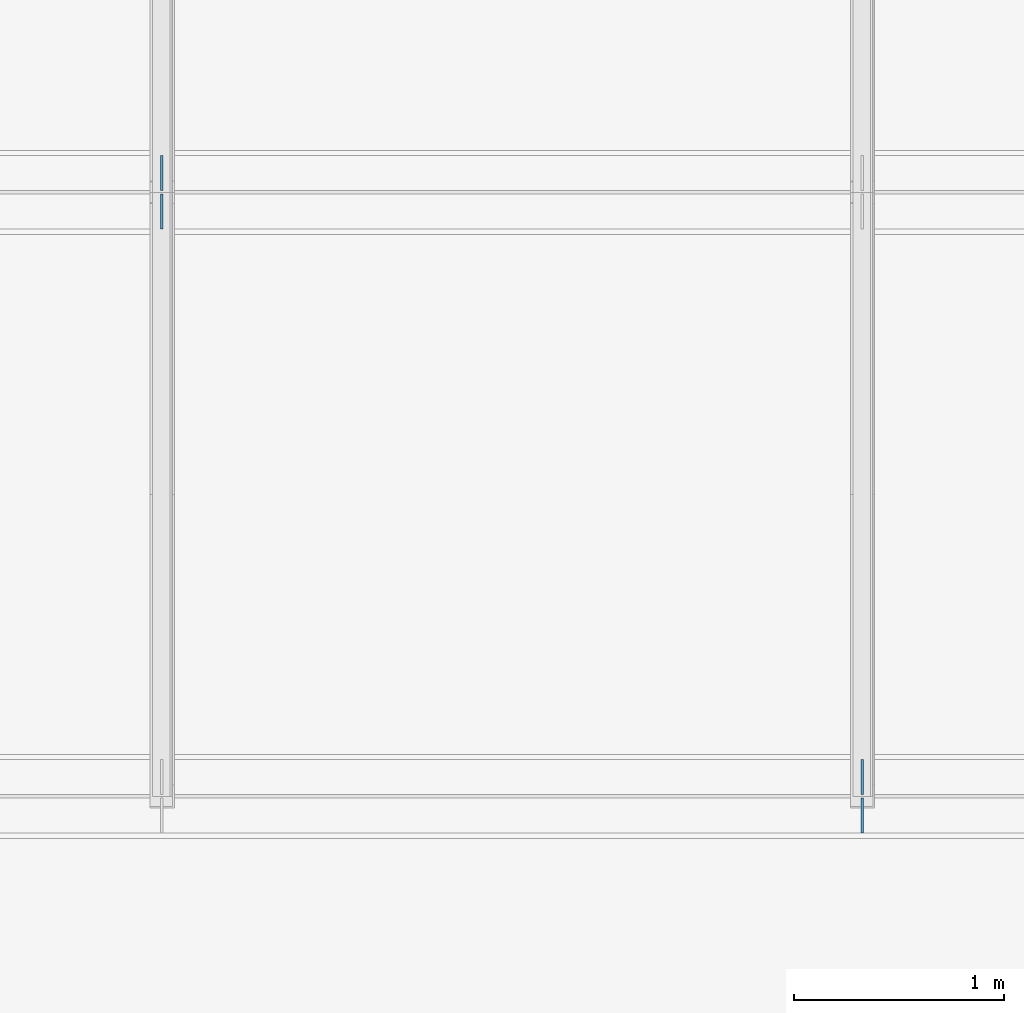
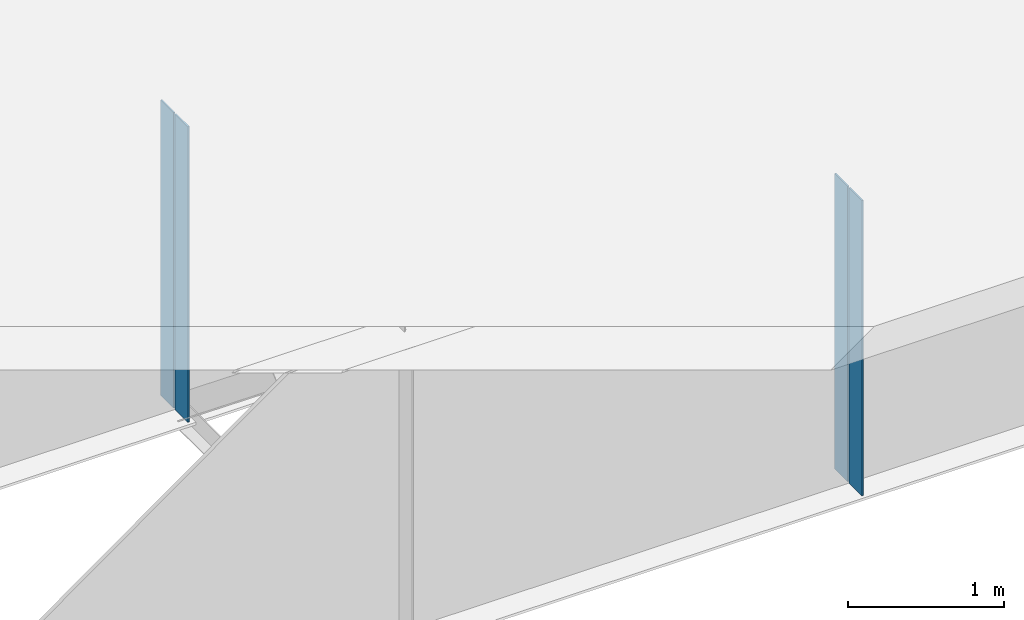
# One storey, part 7 of 15: 4 plates.
"""IFC4 building model written with IfcOpenShell, lengths in metres."""

from ifc_helpers import new_model, si_unit, frame, origin, origin_with_axes, origin_2d_with_axis, place, context, subcontext, project, spatial, rectangle, extrude, element, save


model = new_model("IFC4")

# Units and contexts
model_context = context("Model", 3, precision=1e-05, world=origin())
body_context = subcontext(model_context, "Body", "Model", "MODEL_VIEW")
ifc_project = project(units=[si_unit("LENGTHUNIT", "METRE"), si_unit("AREAUNIT", "SQUARE_METRE"), si_unit("VOLUMEUNIT", "CUBIC_METRE"), si_unit("PLANEANGLEUNIT", "RADIAN")], contexts=[model_context])

# Site, building, storey
site_placement = place(None, origin_with_axes())
site = spatial("IfcSite", under=ifc_project, at=site_placement, Name="Default Site")
building_placement = place(site_placement, origin_with_axes())
building = spatial("IfcBuilding", under=site, at=building_placement, Name="Bridge Structure")
storey_placement = place(building_placement, origin_with_axes())
storey = spatial("IfcBuildingStorey", under=building, at=storey_placement, Name="Superstructure")

# Plates
for number, where, z_axis, x_axis, name in (
    (1, (19.998, -4.221, -1.157), (0.0, 0.0, 1.0), (1.0, 0.0, 0.0), "Intermediate Stiffener 1"),
    (2, (19.998, -4.404, -1.157), (0.0, 0.0, 1.0), (1.0, 0.0, 0.0), "Intermediate Stiffener 1"),
    (3, (16.665, -1.346, -1.157), (0.0, 0.0, 1.0), (1.0, 0.0, 0.0), "Intermediate Stiffener 2"),
    (4, (16.665, -1.5290000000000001, -1.157), (0.0, 0.0, 1.0), (1.0, 0.0, 0.0), "Intermediate Stiffener 2"),
):
    element("IfcPlate", number, at=place(storey_placement, frame(where, z_axis=z_axis, x_axis=x_axis)), inside=storey, Name=name, context=body_context, shape_type="SweptSolid", body=[
        extrude(rectangle(XDim=0.012, YDim=0.167, at=origin_2d_with_axis()), origin_with_axes(), (0.0, 0.0, 1.0), 2.314),
    ])

save(model, "model.ifc")
